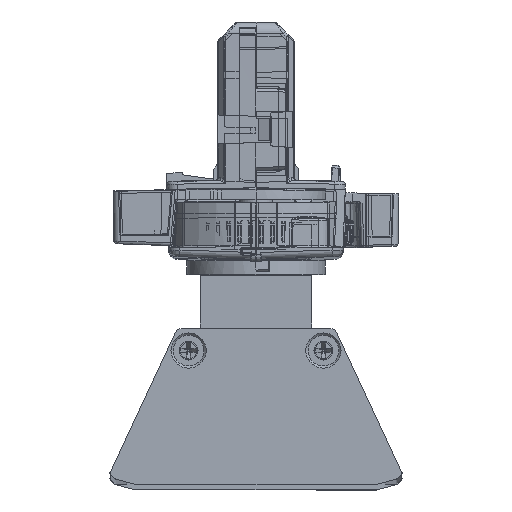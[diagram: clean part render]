
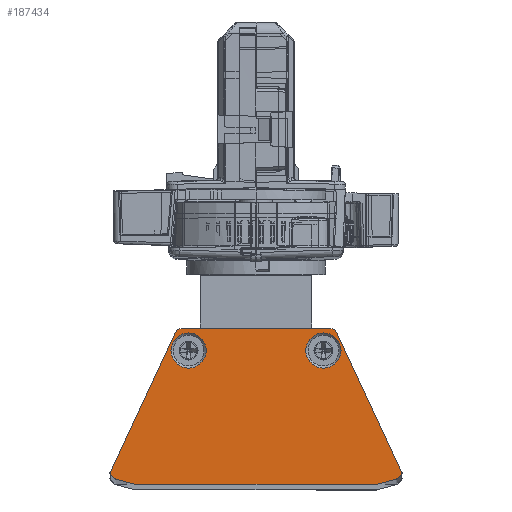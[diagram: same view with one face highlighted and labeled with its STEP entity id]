
A CAD part, top view. The second image highlights one B-rep face of the part: STEP entity #187434.
In plain terms, the highlighted planar face has unit normal (0, 0, 1).
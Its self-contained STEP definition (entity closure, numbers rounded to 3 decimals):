
#2495 = CARTESIAN_POINT ( 'NONE',  ( -14.394, 23.884, 3. ) ) ;
#2889 = ORIENTED_EDGE ( 'NONE', *, *, #348804, .T. ) ;
#3785 = CARTESIAN_POINT ( 'NONE',  ( 12.05, 20.594, 3. ) ) ;
#4716 = DIRECTION ( 'NONE',  ( 0., 0., 1. ) ) ;
#11746 = CARTESIAN_POINT ( 'NONE',  ( -2.274, -8.487, 3. ) ) ;
#15026 = VECTOR ( 'NONE', #344743, 1000. ) ;
#15774 = LINE ( 'NONE', #83610, #284442 ) ;
#16252 = DIRECTION ( 'NONE',  ( 0.423, 0.906, 0. ) ) ;
#21774 = AXIS2_PLACEMENT_3D ( 'NONE', #90089, #148534, #263677 ) ;
#24461 = AXIS2_PLACEMENT_3D ( 'NONE', #32957, #89624, #208438 ) ;
#25030 = CARTESIAN_POINT ( 'NONE',  ( 26.067, -1.15, 3. ) ) ;
#28612 = CARTESIAN_POINT ( 'NONE',  ( -26.067, -1.15, 3. ) ) ;
#29354 = CARTESIAN_POINT ( 'NONE',  ( -13.397, 24.519, 3. ) ) ;
#30243 = DIRECTION ( 'NONE',  ( 0., 0., 1. ) ) ;
#32957 = CARTESIAN_POINT ( 'NONE',  ( 13.397, 23.419, 3. ) ) ;
#35278 = LINE ( 'NONE', #267399, #295792 ) ;
#39805 = CIRCLE ( 'NONE', #21774, 0.35 ) ;
#44983 = EDGE_LOOP ( 'NONE', ( #229754 ) ) ;
#45122 = DIRECTION ( 'NONE',  ( 1., 0., 0. ) ) ;
#50548 = FACE_BOUND ( 'NONE', #44983, .T. ) ;
#51204 = EDGE_CURVE ( 'NONE', #244755, #58785, #35278, .T. ) ;
#51728 = VERTEX_POINT ( 'NONE', #135044 ) ;
#51920 = AXIS2_PLACEMENT_3D ( 'NONE', #144236, #83938, #167022 ) ;
#52437 = FACE_OUTER_BOUND ( 'NONE', #222503, .T. ) ;
#54319 = PLANE ( 'NONE',  #174936 ) ;
#54454 = ORIENTED_EDGE ( 'NONE', *, *, #163873, .F. ) ;
#55223 = AXIS2_PLACEMENT_3D ( 'NONE', #3785, #30243, #124471 ) ;
#56586 = EDGE_CURVE ( 'NONE', #292085, #51728, #257248, .T. ) ;
#58785 = VERTEX_POINT ( 'NONE', #277060 ) ;
#59302 = DIRECTION ( 'NONE',  ( 0., 0., 1. ) ) ;
#74284 = AXIS2_PLACEMENT_3D ( 'NONE', #299996, #275420, #45122 ) ;
#78378 = VECTOR ( 'NONE', #16252, 1000. ) ;
#81779 = CARTESIAN_POINT ( 'NONE',  ( -25.997, -1.546, 3. ) ) ;
#82661 = FACE_BOUND ( 'NONE', #368134, .T. ) ;
#83610 = CARTESIAN_POINT ( 'NONE',  ( 13.772, -13.772, 3. ) ) ;
#83899 = ORIENTED_EDGE ( 'NONE', *, *, #51204, .F. ) ;
#83938 = DIRECTION ( 'NONE',  ( 0., 0., 1. ) ) ;
#87864 = VERTEX_POINT ( 'NONE', #231550 ) ;
#89624 = DIRECTION ( 'NONE',  ( 0., 0., -1. ) ) ;
#89654 = CIRCLE ( 'NONE', #107577, 0.35 ) ;
#90089 = CARTESIAN_POINT ( 'NONE',  ( -25.75, -1.298, 3. ) ) ;
#92974 = ORIENTED_EDGE ( 'NONE', *, *, #275431, .T. ) ;
#94292 = VERTEX_POINT ( 'NONE', #305256 ) ;
#103292 = ORIENTED_EDGE ( 'NONE', *, *, #295590, .T. ) ;
#106807 = EDGE_CURVE ( 'NONE', #226221, #226221, #178645, .T. ) ;
#107577 = AXIS2_PLACEMENT_3D ( 'NONE', #317859, #59302, #240365 ) ;
#109052 = DIRECTION ( 'NONE',  ( 1., 0., 0. ) ) ;
#110472 = LINE ( 'NONE', #163443, #78378 ) ;
#124471 = DIRECTION ( 'NONE',  ( 1., 0., 0. ) ) ;
#128877 = EDGE_CURVE ( 'NONE', #58785, #135341, #151113, .T. ) ;
#131387 = VERTEX_POINT ( 'NONE', #173376 ) ;
#135044 = CARTESIAN_POINT ( 'NONE',  ( 21.513, -3.332, 3. ) ) ;
#135341 = VERTEX_POINT ( 'NONE', #352193 ) ;
#138309 = CARTESIAN_POINT ( 'NONE',  ( 0., -3.332, 3. ) ) ;
#141892 = VECTOR ( 'NONE', #243900, 1000. ) ;
#144236 = CARTESIAN_POINT ( 'NONE',  ( -12.05, 20.594, 3. ) ) ;
#147691 = ORIENTED_EDGE ( 'NONE', *, *, #106807, .F. ) ;
#148445 = ORIENTED_EDGE ( 'NONE', *, *, #351811, .F. ) ;
#148534 = DIRECTION ( 'NONE',  ( 0., 0., -1. ) ) ;
#149876 = CARTESIAN_POINT ( 'NONE',  ( -13.772, -13.772, 3. ) ) ;
#150112 = VERTEX_POINT ( 'NONE', #240770 ) ;
#151113 = CIRCLE ( 'NONE', #24461, 1.1 ) ;
#153585 = LINE ( 'NONE', #149876, #194869 ) ;
#154803 = CARTESIAN_POINT ( 'NONE',  ( -25.017, -2.031, 3. ) ) ;
#155264 = ORIENTED_EDGE ( 'NONE', *, *, #128877, .F. ) ;
#158594 = CIRCLE ( 'NONE', #74284, 0.35 ) ;
#159644 = AXIS2_PLACEMENT_3D ( 'NONE', #154803, #269933, #356638 ) ;
#161991 = DIRECTION ( 'NONE',  ( 0.966, 0.259, 0. ) ) ;
#162446 = CARTESIAN_POINT ( 'NONE',  ( 25.997, -1.546, 3. ) ) ;
#163443 = CARTESIAN_POINT ( 'NONE',  ( -20.971, 9.779, 3. ) ) ;
#163873 = EDGE_CURVE ( 'NONE', #346123, #253212, #39805, .T. ) ;
#166283 = ORIENTED_EDGE ( 'NONE', *, *, #172346, .T. ) ;
#167022 = DIRECTION ( 'NONE',  ( 1., 0., 0. ) ) ;
#167295 = EDGE_CURVE ( 'NONE', #314847, #314847, #332394, .T. ) ;
#169588 = CARTESIAN_POINT ( 'NONE',  ( -8.9, 20.594, 3. ) ) ;
#172346 = EDGE_CURVE ( 'NONE', #94292, #249625, #15774, .T. ) ;
#173376 = CARTESIAN_POINT ( 'NONE',  ( 25.108, -2.369, 3. ) ) ;
#174533 = VERTEX_POINT ( 'NONE', #2495 ) ;
#174936 = AXIS2_PLACEMENT_3D ( 'NONE', #337381, #252562, #109052 ) ;
#176194 = VERTEX_POINT ( 'NONE', #25030 ) ;
#178645 = CIRCLE ( 'NONE', #51920, 3.15 ) ;
#179381 = EDGE_CURVE ( 'NONE', #87864, #150112, #291947, .T. ) ;
#187434 = ADVANCED_FACE ( 'NONE', ( #50548, #82661, #52437 ), #54319, .T. ) ;
#192366 = ORIENTED_EDGE ( 'NONE', *, *, #366932, .F. ) ;
#194869 = VECTOR ( 'NONE', #293312, 1000. ) ;
#197879 = CARTESIAN_POINT ( 'NONE',  ( 15.2, 20.594, 3. ) ) ;
#198087 = ORIENTED_EDGE ( 'NONE', *, *, #56586, .T. ) ;
#198248 = VECTOR ( 'NONE', #311969, 1000. ) ;
#208438 = DIRECTION ( 'NONE',  ( 1., 0., 0. ) ) ;
#219305 = EDGE_CURVE ( 'NONE', #292085, #87864, #275902, .T. ) ;
#222503 = EDGE_LOOP ( 'NONE', ( #277229, #371284, #198087, #103292, #311510, #166283, #310590, #92974, #155264, #83899, #2889, #192366, #54454, #148445 ) ) ;
#225370 = EDGE_CURVE ( 'NONE', #131387, #94292, #89654, .T. ) ;
#226221 = VERTEX_POINT ( 'NONE', #169588 ) ;
#227898 = LINE ( 'NONE', #229789, #15026 ) ;
#229754 = ORIENTED_EDGE ( 'NONE', *, *, #167295, .F. ) ;
#229789 = CARTESIAN_POINT ( 'NONE',  ( 20.971, 9.779, 3. ) ) ;
#231550 = CARTESIAN_POINT ( 'NONE',  ( -25.108, -2.369, 3. ) ) ;
#240365 = DIRECTION ( 'NONE',  ( 1., 0., 0. ) ) ;
#240770 = CARTESIAN_POINT ( 'NONE',  ( -25.265, -2.279, 3. ) ) ;
#243900 = DIRECTION ( 'NONE',  ( -0.966, 0.259, 0. ) ) ;
#244755 = VERTEX_POINT ( 'NONE', #29354 ) ;
#249625 = VERTEX_POINT ( 'NONE', #162446 ) ;
#252557 = LINE ( 'NONE', #367538, #262600 ) ;
#252562 = DIRECTION ( 'NONE',  ( 0., 0., 1. ) ) ;
#253212 = VERTEX_POINT ( 'NONE', #28612 ) ;
#255372 = DIRECTION ( 'NONE',  ( 0.707, 0.707, 0. ) ) ;
#257248 = LINE ( 'NONE', #138309, #198248 ) ;
#260938 = CARTESIAN_POINT ( 'NONE',  ( -21.513, -3.332, 3. ) ) ;
#262600 = VECTOR ( 'NONE', #161991, 1000. ) ;
#263677 = DIRECTION ( 'NONE',  ( 1., 0., 0. ) ) ;
#267399 = CARTESIAN_POINT ( 'NONE',  ( 0., 24.519, 3. ) ) ;
#269933 = DIRECTION ( 'NONE',  ( 0., 0., -1. ) ) ;
#275420 = DIRECTION ( 'NONE',  ( 0., 0., 1. ) ) ;
#275431 = EDGE_CURVE ( 'NONE', #176194, #135341, #227898, .T. ) ;
#275902 = LINE ( 'NONE', #11746, #141892 ) ;
#277060 = CARTESIAN_POINT ( 'NONE',  ( 13.397, 24.519, 3. ) ) ;
#277229 = ORIENTED_EDGE ( 'NONE', *, *, #179381, .F. ) ;
#278225 = CIRCLE ( 'NONE', #302179, 1.1 ) ;
#284442 = VECTOR ( 'NONE', #255372, 1000. ) ;
#287885 = DIRECTION ( 'NONE',  ( 1., 0., 0. ) ) ;
#290388 = EDGE_CURVE ( 'NONE', #249625, #176194, #158594, .T. ) ;
#291947 = CIRCLE ( 'NONE', #159644, 0.35 ) ;
#292085 = VERTEX_POINT ( 'NONE', #260938 ) ;
#293312 = DIRECTION ( 'NONE',  ( -0.707, 0.707, 0. ) ) ;
#295590 = EDGE_CURVE ( 'NONE', #51728, #131387, #252557, .T. ) ;
#295792 = VECTOR ( 'NONE', #354088, 1000. ) ;
#299996 = CARTESIAN_POINT ( 'NONE',  ( 25.75, -1.298, 3. ) ) ;
#302179 = AXIS2_PLACEMENT_3D ( 'NONE', #342572, #4716, #287885 ) ;
#305256 = CARTESIAN_POINT ( 'NONE',  ( 25.265, -2.279, 3. ) ) ;
#310590 = ORIENTED_EDGE ( 'NONE', *, *, #290388, .T. ) ;
#311510 = ORIENTED_EDGE ( 'NONE', *, *, #225370, .T. ) ;
#311969 = DIRECTION ( 'NONE',  ( 1., 0., 0. ) ) ;
#314847 = VERTEX_POINT ( 'NONE', #197879 ) ;
#317859 = CARTESIAN_POINT ( 'NONE',  ( 25.017, -2.031, 3. ) ) ;
#332394 = CIRCLE ( 'NONE', #55223, 3.15 ) ;
#337381 = CARTESIAN_POINT ( 'NONE',  ( 0., 0., 3. ) ) ;
#342572 = CARTESIAN_POINT ( 'NONE',  ( -13.397, 23.419, 3. ) ) ;
#344743 = DIRECTION ( 'NONE',  ( -0.423, 0.906, 0. ) ) ;
#346123 = VERTEX_POINT ( 'NONE', #81779 ) ;
#348804 = EDGE_CURVE ( 'NONE', #244755, #174533, #278225, .T. ) ;
#351811 = EDGE_CURVE ( 'NONE', #150112, #346123, #153585, .T. ) ;
#352193 = CARTESIAN_POINT ( 'NONE',  ( 14.394, 23.884, 3. ) ) ;
#354088 = DIRECTION ( 'NONE',  ( 1., 0., 0. ) ) ;
#356638 = DIRECTION ( 'NONE',  ( 1., 0., 0. ) ) ;
#366932 = EDGE_CURVE ( 'NONE', #253212, #174533, #110472, .T. ) ;
#367538 = CARTESIAN_POINT ( 'NONE',  ( 2.274, -8.487, 3. ) ) ;
#368134 = EDGE_LOOP ( 'NONE', ( #147691 ) ) ;
#371284 = ORIENTED_EDGE ( 'NONE', *, *, #219305, .F. ) ;
